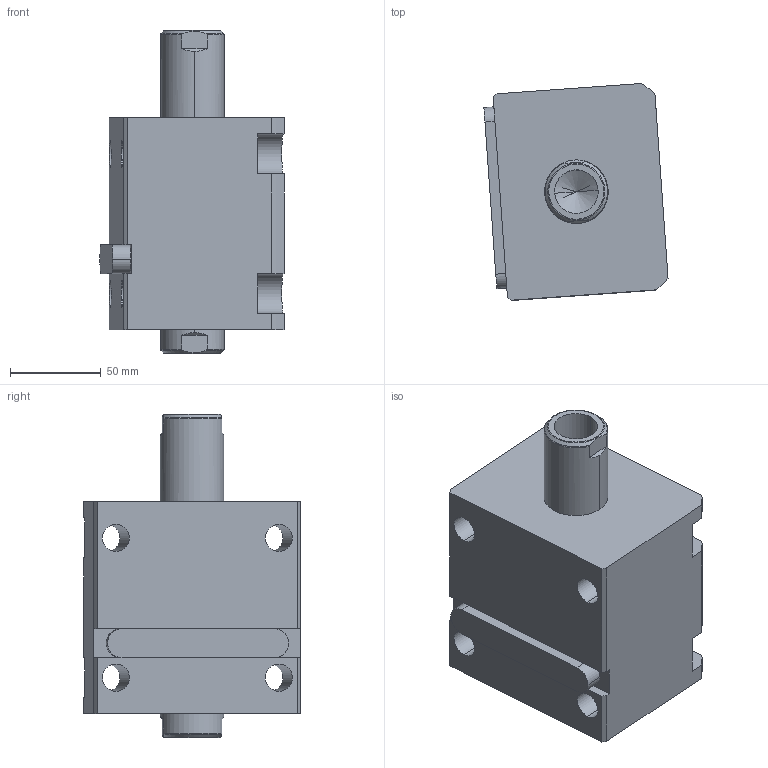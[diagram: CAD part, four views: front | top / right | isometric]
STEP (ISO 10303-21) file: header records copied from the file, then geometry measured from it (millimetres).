
FILE_DESCRIPTION (( 'STEP AP214' ), '1' );
FILE_NAME ('chtb-lw63x35n_asm.STEP', '2018-05-03T07:17:46', ( 'Windows' ), ( 'Microsoft' ), 'SwSTEP 2.0', 'SolidWorks 2015', '' );
FILE_SCHEMA (( 'AUTOMOTIVE_DESIGN' ));
Length unit declared in the file: millimetre
Products named in the file (5): CHTB-SW63X35NHSG; CHTB-LW63X35NBT; CHTB-LA63PJ; CHTB-63QG; chtb-lw63x35n_asm
Assembly tree (4 placements, depth 2):
  chtb-lw63x35n_asm
    CHTB-63QG
    CHTB-LA63PJ
    CHTB-LW63X35NBT
    CHTB-SW63X35NHSG
Bounding box: 101.44 x 119.35 x 178 mm (x, y, z)
Volume: 1069693 mm3; surface area: 159209.9 mm2
Topology: 4 solids, 4 shells, 194 faces, 557 edges, 377 vertices
Faces by surface type: cylinder 104, plane 50, cone 16, bspline 12, torus 12
Entity records: 18816 total; most frequent: CARTESIAN_POINT 13834, ORIENTED_EDGE 1098, DIRECTION 871, EDGE_CURVE 549, VERTEX_POINT 377, AXIS2_PLACEMENT_3D 335, EDGE_LOOP 222, LINE 201
